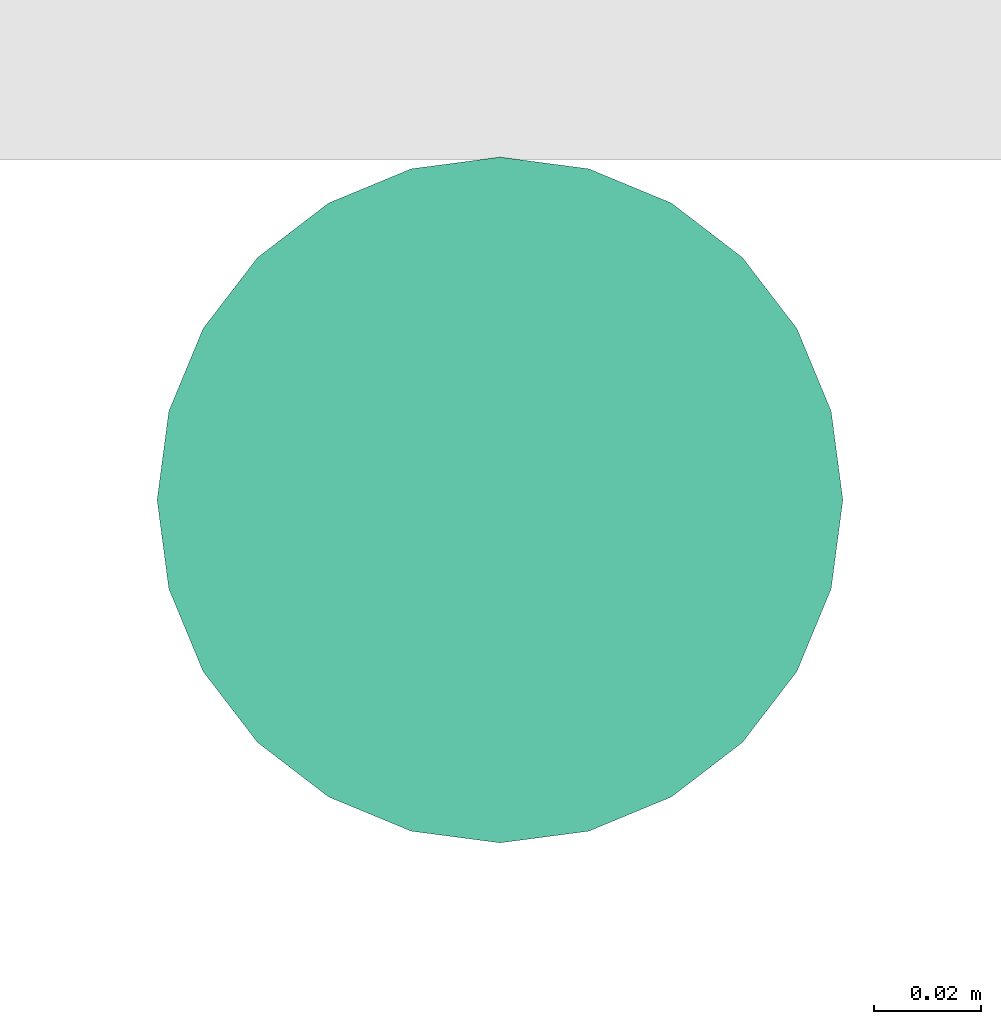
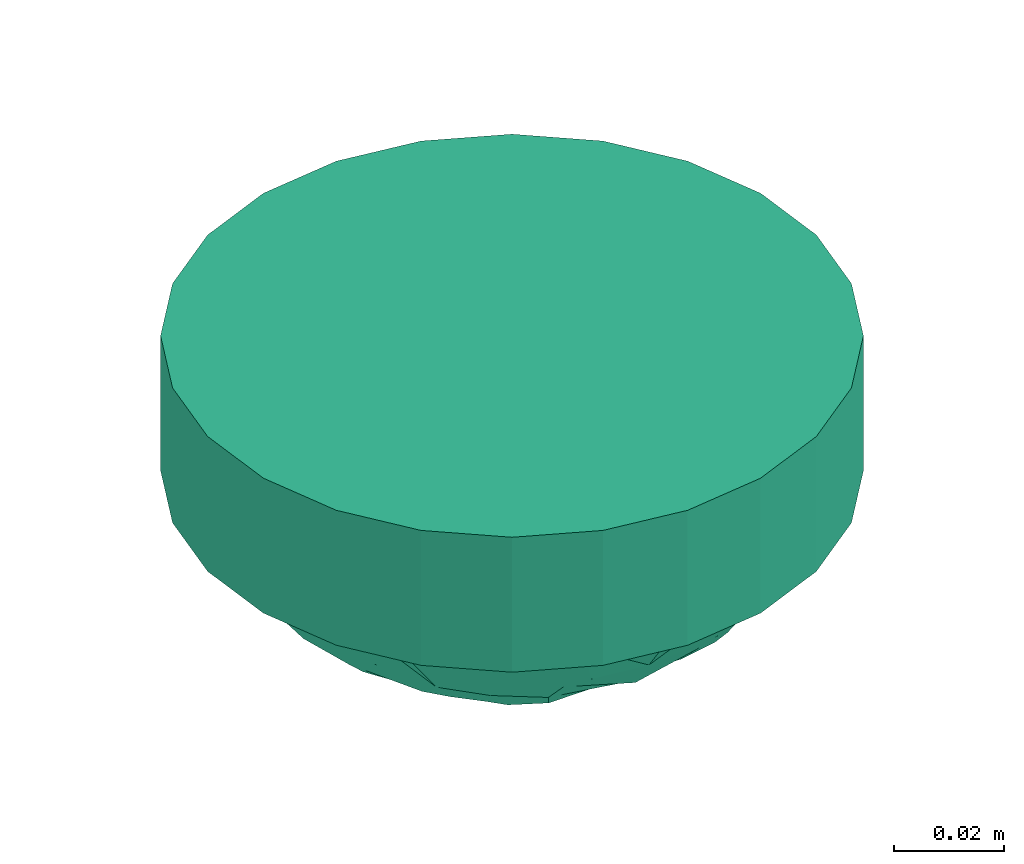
# One storey, part 129 of 153: 1 flow terminal.
"""IFC2X3 building model written with IfcOpenShell, lengths in metres."""

from ifc_helpers import new_model, entity, si_unit, converted_unit, derived_unit, direction, frame, origin, place, context, subcontext, project, spatial, faceted_brep, source, transform, mapped, type_object, type_shapes, element, save


model = new_model("IFC2X3")

# Units and contexts
model_context = context("Model", 3, precision=1e-05, world=origin(), true_north=direction((6.12303176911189e-17, 1.0)))
body_context = subcontext(model_context, "Body", "Model", "MODEL_VIEW")
ifc_project = project(units=[si_unit("LENGTHUNIT", "METRE"), si_unit("AREAUNIT", "SQUARE_METRE"), si_unit("VOLUMEUNIT", "CUBIC_METRE"), converted_unit("PLANEANGLEUNIT", "DEGREE", entity("IfcRatioMeasure", 0.0174532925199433), si_unit("PLANEANGLEUNIT", "RADIAN"), dimensions=[0, 0, 0, 0, 0, 0, 0]), si_unit("MASSUNIT", "GRAM", prefix="KILO"), derived_unit("MASSDENSITYUNIT", [(si_unit("MASSUNIT", "GRAM", prefix="KILO"), 1), (si_unit("LENGTHUNIT", "METRE"), -3)]), si_unit("TIMEUNIT", "SECOND"), si_unit("FREQUENCYUNIT", "HERTZ"), si_unit("THERMODYNAMICTEMPERATUREUNIT", "DEGREE_CELSIUS"), derived_unit("THERMALTRANSMITTANCEUNIT", [(si_unit("MASSUNIT", "GRAM", prefix="KILO"), 1), (si_unit("THERMODYNAMICTEMPERATUREUNIT", "KELVIN"), -1), (si_unit("TIMEUNIT", "SECOND"), -3)]), derived_unit("VOLUMETRICFLOWRATEUNIT", [(si_unit("LENGTHUNIT", "METRE"), 3), (si_unit("TIMEUNIT", "SECOND"), -1)]), si_unit("ELECTRICCURRENTUNIT", "AMPERE"), si_unit("ELECTRICVOLTAGEUNIT", "VOLT"), si_unit("POWERUNIT", "WATT"), si_unit("FORCEUNIT", "NEWTON"), si_unit("ILLUMINANCEUNIT", "LUX"), si_unit("LUMINOUSFLUXUNIT", "LUMEN"), si_unit("LUMINOUSINTENSITYUNIT", "CANDELA"), derived_unit("USERDEFINED", [(si_unit("MASSUNIT", "GRAM", prefix="KILO"), -1), (si_unit("LENGTHUNIT", "METRE"), -2), (si_unit("TIMEUNIT", "SECOND"), 3), (si_unit("LUMINOUSFLUXUNIT", "LUMEN"), 1)]), derived_unit("LINEARVELOCITYUNIT", [(si_unit("LENGTHUNIT", "METRE"), 1), (si_unit("TIMEUNIT", "SECOND"), -1)]), si_unit("PRESSUREUNIT", "PASCAL"), derived_unit("USERDEFINED", [(si_unit("LENGTHUNIT", "METRE"), -2), (si_unit("MASSUNIT", "GRAM", prefix="KILO"), 1), (si_unit("TIMEUNIT", "SECOND"), -2)])], contexts=[model_context])

# Site, building, storey
site_placement = place(None, origin())
site = spatial("IfcSite", under=ifc_project, at=site_placement, Name="Default", CompositionType="ELEMENT")
building_placement = place(site_placement, origin())
building = spatial("IfcBuilding", under=site, at=building_placement, CompositionType="ELEMENT")
storey_placement = place(building_placement, frame((0.0, 0.0, -4.62)))
storey = spatial("IfcBuildingStorey", under=building, at=storey_placement, Name="S02", CompositionType="ELEMENT", Elevation=-4.62)

# Flow terminal
light_fixture_type = type_object("IfcLightFixtureType", Name="Détecteur 360°", PredefinedType="NOTDEFINED")
shared_shape = source(origin(), body_context, "Body", "Brep", [
    faceted_brep([(0.0, -0.0397165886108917, 0.0531256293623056), (0.0, -0.034524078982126, 0.0563702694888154), (-0.0175153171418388, -0.0435914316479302, 0.0478512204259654), (-0.0194029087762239, -0.000878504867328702, 0.0644483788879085), (0.0, 0.0, 0.0669999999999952), (0.0, 0.00603476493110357, 0.0659648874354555), (-0.0174057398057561, -0.0159851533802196, 0.0630502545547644), (-0.0366619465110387, -0.0127227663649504, 0.0549213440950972), (-0.026998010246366, -0.0195753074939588, 0.0584711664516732), (-0.0202403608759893, -0.0335607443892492, 0.054639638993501), (-0.0359767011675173, -0.0348394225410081, 0.0444249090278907), (-0.0276843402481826, -0.0401006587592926, 0.0459804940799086), (-0.0133088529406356, -0.0517577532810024, 0.0400582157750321), (-0.0172617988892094, -0.0486391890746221, 0.042533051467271), (-0.0256912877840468, -0.0533485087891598, 0.0299999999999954), (-0.0462941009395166, -0.0369183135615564, 0.0299999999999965), (0.0, -0.0241390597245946, 0.0628595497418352), (-0.0186245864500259, -0.0267295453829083, 0.0589100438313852), (-0.0139070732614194, -0.0374370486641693, 0.0540817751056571), (0.0, 0.0449090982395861, 0.049880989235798), (-0.0172618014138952, 0.0486391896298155, 0.0425330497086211), (0.0, 0.0397165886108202, 0.0531256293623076), (-0.0186245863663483, 0.0267295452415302, 0.0589100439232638), (-0.0202403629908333, 0.0335607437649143, 0.054639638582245), (-0.0353547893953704, 0.0284533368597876, 0.0494330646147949), (0.0, 0.0120695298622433, 0.0649297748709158), (-0.0249385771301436, 0.0204731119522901, 0.0590841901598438), (-0.0191783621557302, 0.0150189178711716, 0.062775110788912), (-0.0465404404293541, -0.0196510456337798, 0.0438984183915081), (-0.052010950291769, -0.0250471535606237, 0.029999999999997), (-0.0453471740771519, -0.0286501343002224, 0.0397747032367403), (-0.0365036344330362, -0.0226255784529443, 0.0516441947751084), (-0.0175153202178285, 0.0435914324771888, 0.0478512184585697), (-0.0359926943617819, 0.0451334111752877, 0.0299999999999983), (-0.0276843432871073, 0.0401006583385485, 0.0459804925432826), (-0.00849704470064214, -0.0572729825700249, 0.0299999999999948), (0.0, -0.0592123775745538, 0.0299999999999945), (0.0, -0.0545512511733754, 0.0364787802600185), (0.0, -0.049890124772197, 0.0429575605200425), (-0.0169940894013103, -0.055333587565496, 0.0299999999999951), (-0.0359767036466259, 0.0348394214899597, 0.0444249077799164), (-0.025691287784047, 0.0533485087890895, 0.0299999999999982), (-0.0308419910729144, 0.0492409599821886, 0.0299999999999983), (-0.0130265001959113, 0.0514867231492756, 0.040526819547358), (-0.0169940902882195, 0.0553335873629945, 0.029999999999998), (0.0, 0.0498901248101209, 0.0429575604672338), (-0.0353547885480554, -0.0284533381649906, 0.0494330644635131), (0.0, 0.0181042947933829, 0.0638946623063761), (-0.0473669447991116, -0.00128092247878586, 0.0474310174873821), (-0.0485435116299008, -0.00908961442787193, 0.0452357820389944), (-0.0366597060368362, -0.0032867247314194, 0.0563153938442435), (-0.0226425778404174, -0.0107553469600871, 0.0624973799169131), (0.0, -0.00603476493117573, 0.0659648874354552), (0.0, 0.0293315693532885, 0.0596149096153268), (-0.0139070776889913, 0.0374370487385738, 0.0540817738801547), (-0.0449600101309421, 0.018422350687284, 0.0461366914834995), (-0.0453471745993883, 0.0286501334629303, 0.0397747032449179), (-0.0476906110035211, 0.00670602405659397, 0.0466053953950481), (-0.0577277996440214, 0.0131759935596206, 0.0299999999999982), (-0.0577277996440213, 0.00658799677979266, 0.029999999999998), (-0.0577277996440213, 0.0, 0.0299999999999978), (0.0, -0.0449090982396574, 0.0498809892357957), (-0.0308419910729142, -0.049240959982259, 0.0299999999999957), (-0.0359926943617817, -0.0451334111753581, 0.029999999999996), (0.0, 0.0345240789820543, 0.0563702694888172), (-0.0411433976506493, 0.0410258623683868, 0.0299999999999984), (-0.0462941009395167, 0.0369183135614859, 0.0299999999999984), (-0.0491525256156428, -0.03098273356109, 0.0299999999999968), (-0.0577277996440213, -0.0131759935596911, 0.0299999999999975), (0.0, -0.018104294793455, 0.0638946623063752), (-0.0377433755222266, 0.0044838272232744, 0.0554913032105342), (-0.0577277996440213, -0.00658799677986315, 0.0299999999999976), (-0.0385149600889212, 0.0124844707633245, 0.0536578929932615), (-0.0491525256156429, 0.0309827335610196, 0.0299999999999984), (-0.0548693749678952, 0.0191115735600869, 0.0299999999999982), (0.0, 0.0241390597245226, 0.0628595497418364), (-0.014625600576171, 0.0100436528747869, 0.0649170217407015), (-0.0271766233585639, 0.00920278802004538, 0.0609170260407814), (0.0, -0.0120695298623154, 0.0649297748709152), (-0.0520109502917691, 0.0250471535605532, 0.0299999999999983), (-0.0411433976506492, -0.0410258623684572, 0.0299999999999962), (-0.0548693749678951, -0.0191115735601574, 0.0299999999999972), (0.0, -0.0293315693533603, 0.0596149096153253), (0.0, 0.0545512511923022, 0.0364787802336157), (0.0, 0.0592123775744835, 0.0299999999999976), (-0.00849704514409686, 0.057272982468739, 0.0299999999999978), (-0.0127455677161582, 0.0563032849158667, 0.0299999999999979), (-0.0213426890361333, 0.054341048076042, 0.0299999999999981), (0.0175153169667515, 0.0435914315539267, 0.0478512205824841), (0.0194029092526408, 0.000878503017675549, 0.0644483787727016), (0.017405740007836, 0.0159851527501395, 0.0630502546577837), (0.0366619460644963, 0.012722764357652, 0.0549213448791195), (0.0269980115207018, 0.0195753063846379, 0.0584711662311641), (0.0202403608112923, 0.0335607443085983, 0.0546396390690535), (0.0359767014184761, 0.0348394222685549, 0.0444249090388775), (0.0276843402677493, 0.0401006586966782, 0.0459804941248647), (0.0133088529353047, 0.0517577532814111, 0.0400582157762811), (0.0172617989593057, 0.0486391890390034, 0.0425330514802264), (0.0256912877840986, 0.0533485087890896, 0.0299999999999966), (0.0462941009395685, 0.0369183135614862, 0.0299999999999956), (0.00849704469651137, 0.0572729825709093, 0.0299999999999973), (0.0169940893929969, 0.0553335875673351, 0.029999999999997), (0.0172617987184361, -0.0486391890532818, 0.0425330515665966), (0.025691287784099, -0.0533485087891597, 0.0299999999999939), (0.0308419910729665, -0.0492409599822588, 0.0299999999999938), (0.0175153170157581, -0.0435914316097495, 0.0478512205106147), (0.0186245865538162, -0.0267295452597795, 0.0589100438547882), (0.0202403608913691, -0.03356074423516, 0.0546396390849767), (0.0353547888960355, -0.0284533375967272, 0.0494330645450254), (0.0249385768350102, -0.0204731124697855, 0.0590841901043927), (0.0191783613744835, -0.0150189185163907, 0.062775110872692), (0.0465404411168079, 0.0196510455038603, 0.0438984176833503), (0.0577277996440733, 0.0131759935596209, 0.0299999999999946), (0.0548693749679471, 0.0191115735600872, 0.0299999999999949), (0.0520109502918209, 0.0250471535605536, 0.0299999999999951), (0.0365036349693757, 0.0226255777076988, 0.0516441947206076), (0.0186245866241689, 0.0267295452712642, 0.0589100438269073), (0.0359926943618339, -0.0451334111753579, 0.0299999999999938), (0.0276843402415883, -0.0401006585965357, 0.0459804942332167), (0.0139070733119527, 0.0374370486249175, 0.0540817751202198), (0.0359767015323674, -0.0348394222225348, 0.044424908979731), (0.0226425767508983, 0.0107553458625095, 0.0624973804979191), (0.0169940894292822, -0.0553335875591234, 0.0299999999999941), (0.0130264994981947, -0.0514867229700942, 0.0405268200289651), (0.0453471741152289, 0.0286501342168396, 0.039774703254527), (0.0353547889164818, 0.0284533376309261, 0.0494330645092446), (0.0473669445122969, 0.00128092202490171, 0.0474310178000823), (0.0485435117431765, 0.00908961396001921, 0.0452357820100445), (0.0366597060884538, 0.00328672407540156, 0.0563153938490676), (0.0139070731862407, -0.0374370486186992, 0.0540817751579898), (0.0449600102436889, -0.018422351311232, 0.0461366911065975), (0.0453471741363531, -0.0286501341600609, 0.039774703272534), (0.0476906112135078, -0.00670602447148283, 0.046605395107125), (0.0577277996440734, -0.0131759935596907, 0.0299999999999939), (0.0577277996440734, -0.00658799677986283, 0.0299999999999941), (0.0577277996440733, 0.0, 0.0299999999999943), (0.0308419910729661, 0.0492409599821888, 0.0299999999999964), (0.0359926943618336, 0.0451334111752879, 0.0299999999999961), (0.0411433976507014, -0.041025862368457, 0.0299999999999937), (0.0462941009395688, -0.0369183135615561, 0.0299999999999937), (0.0491525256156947, 0.0309827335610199, 0.0299999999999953), (0.037743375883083, -0.00448382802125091, 0.0554913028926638), (0.0577277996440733, 0.00658799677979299, 0.0299999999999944), (0.0385149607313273, -0.0124844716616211, 0.0536578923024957), (0.049152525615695, -0.0309827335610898, 0.0299999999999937), (0.0548693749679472, -0.0191115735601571, 0.0299999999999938), (0.0146256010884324, -0.0100436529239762, 0.0649170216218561), (0.0271766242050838, -0.00920278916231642, 0.0609170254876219), (0.0520109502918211, -0.0250471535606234, 0.0299999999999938), (0.041143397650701, 0.0410258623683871, 0.0299999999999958), (0.00849704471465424, -0.0572729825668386, 0.0299999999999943), (0.0127455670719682, -0.056303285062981, 0.0299999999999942), (0.0213426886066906, -0.0543410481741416, 0.029999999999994), (0.0, 0.0, 0.0299999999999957)], [[[0, 1, 2]], [[3, 4, 5]], [[6, 7, 8]], [[9, 10, 11]], [[12, 13, 14]], [[10, 15, 11]], [[9, 16, 17]], [[18, 9, 11]], [[19, 20, 21]], [[22, 23, 24]], [[25, 26, 27]], [[28, 29, 30]], [[8, 31, 17]], [[32, 33, 34]], [[35, 36, 37, 38, 39]], [[23, 40, 24]], [[20, 41, 42]], [[19, 43, 20]], [[44, 43, 45]], [[20, 32, 21]], [[30, 10, 46]], [[22, 26, 47]], [[48, 49, 50]], [[3, 51, 52]], [[53, 54, 23]], [[55, 24, 56]], [[57, 58, 59, 60]], [[13, 61, 0]], [[13, 0, 2]], [[2, 62, 13]], [[18, 2, 1]], [[2, 11, 63]], [[32, 64, 21]], [[32, 42, 33]], [[34, 33, 65, 66]], [[20, 42, 32]], [[54, 32, 34]], [[28, 30, 31]], [[10, 67, 15]], [[49, 68, 28]], [[8, 17, 69]], [[7, 6, 51]], [[28, 31, 7]], [[57, 48, 70]], [[58, 57, 55]], [[48, 71, 49]], [[70, 48, 50]], [[3, 50, 51]], [[55, 26, 24]], [[72, 57, 70]], [[26, 55, 72]], [[56, 40, 73]], [[56, 74, 55]], [[47, 75, 22]], [[52, 4, 3]], [[7, 50, 49]], [[5, 76, 3]], [[70, 3, 77]], [[51, 78, 52]], [[26, 25, 47]], [[76, 25, 27]], [[23, 22, 75]], [[26, 22, 24]], [[53, 64, 54]], [[23, 34, 40]], [[66, 40, 34]], [[40, 66, 73]], [[56, 73, 79, 74]], [[72, 27, 26]], [[40, 56, 24]], [[23, 75, 53]], [[69, 17, 16]], [[78, 6, 69]], [[46, 10, 9]], [[46, 9, 17]], [[50, 7, 51]], [[30, 29, 67]], [[80, 63, 11, 15]], [[28, 68, 81, 29]], [[10, 30, 67]], [[30, 46, 31]], [[82, 18, 1]], [[82, 16, 9]], [[28, 7, 49]], [[12, 39, 38]], [[61, 13, 12]], [[83, 84, 85, 86, 44, 45]], [[43, 41, 20]], [[44, 87, 41, 43]], [[32, 54, 64]], [[23, 54, 34]], [[9, 18, 82]], [[2, 18, 11]], [[39, 12, 14]], [[38, 61, 12]], [[62, 2, 63]], [[62, 14, 13]], [[17, 31, 46]], [[7, 31, 8]], [[48, 60, 71]], [[71, 68, 49]], [[60, 48, 57]], [[3, 70, 50]], [[72, 70, 77]], [[72, 77, 27]], [[55, 57, 72]], [[74, 58, 55]], [[76, 27, 77]], [[3, 76, 77]], [[25, 76, 5]], [[69, 6, 8]], [[78, 51, 6]], [[45, 43, 19]], [[21, 64, 88]], [[89, 4, 52]], [[90, 91, 92]], [[93, 94, 95]], [[96, 97, 98]], [[94, 99, 95]], [[100, 84, 83, 45, 101]], [[102, 103, 104]], [[102, 105, 0]], [[106, 107, 108]], [[78, 109, 110]], [[111, 112, 113, 114]], [[92, 115, 116]], [[105, 117, 118]], [[119, 93, 95]], [[107, 120, 108]], [[89, 121, 5]], [[122, 123, 38]], [[61, 123, 102]], [[93, 75, 116]], [[124, 94, 125]], [[106, 109, 69]], [[126, 127, 128]], [[61, 102, 0]], [[82, 129, 107]], [[130, 108, 131]], [[132, 133, 134, 135]], [[97, 19, 21]], [[97, 21, 88]], [[88, 136, 97]], [[119, 88, 64]], [[88, 95, 137]], [[105, 1, 0]], [[105, 104, 117]], [[118, 117, 138, 139]], [[102, 104, 105]], [[129, 105, 118]], [[111, 124, 115]], [[94, 140, 99]], [[127, 112, 111]], [[92, 116, 47]], [[91, 90, 121]], [[111, 115, 91]], [[132, 126, 141]], [[133, 132, 130]], [[126, 142, 127]], [[141, 126, 128]], [[89, 128, 121]], [[130, 109, 108]], [[143, 132, 141]], [[109, 130, 143]], [[131, 120, 144]], [[131, 145, 130]], [[69, 16, 106]], [[5, 4, 89]], [[91, 128, 127]], [[52, 146, 89]], [[141, 89, 147]], [[121, 25, 5]], [[109, 78, 69]], [[146, 78, 110]], [[107, 106, 16]], [[109, 106, 108]], [[82, 1, 129]], [[107, 118, 120]], [[139, 120, 118]], [[120, 139, 144]], [[131, 144, 148, 145]], [[143, 110, 109]], [[120, 131, 108]], [[107, 16, 82]], [[47, 116, 75]], [[25, 90, 47]], [[125, 94, 93]], [[125, 93, 116]], [[128, 91, 121]], [[124, 114, 140]], [[149, 137, 95, 99]], [[111, 114, 124]], [[94, 124, 140]], [[124, 125, 115]], [[53, 119, 64]], [[53, 75, 93]], [[111, 91, 127]], [[96, 101, 45]], [[19, 97, 96]], [[37, 36, 150, 151, 122, 38]], [[123, 103, 102]], [[122, 152, 103, 123]], [[105, 129, 1]], [[107, 129, 118]], [[93, 119, 53]], [[88, 119, 95]], [[101, 96, 98]], [[45, 19, 96]], [[136, 88, 137]], [[136, 98, 97]], [[116, 115, 125]], [[91, 115, 92]], [[126, 135, 142]], [[142, 112, 127]], [[135, 126, 132]], [[89, 141, 128]], [[143, 141, 147]], [[143, 147, 110]], [[130, 132, 143]], [[145, 133, 130]], [[146, 110, 147]], [[89, 146, 147]], [[78, 146, 52]], [[47, 90, 92]], [[25, 121, 90]], [[38, 123, 61]], [[153, 66, 65]], [[153, 65, 33]], [[153, 33, 42]], [[153, 42, 41]], [[153, 41, 87]], [[153, 73, 66]], [[153, 79, 73]], [[153, 74, 79]], [[153, 58, 74]], [[153, 87, 44]], [[153, 44, 86]], [[153, 86, 85]], [[153, 85, 84]], [[153, 84, 100]], [[153, 59, 58]], [[153, 60, 59]], [[153, 71, 60]], [[153, 68, 71]], [[153, 81, 68]], [[153, 29, 81]], [[153, 67, 29]], [[153, 15, 67]], [[153, 80, 15]], [[153, 63, 80]], [[153, 62, 63]], [[153, 14, 62]], [[153, 39, 14]], [[153, 35, 39]], [[153, 36, 35]], [[153, 100, 101]], [[153, 101, 98]], [[153, 98, 136]], [[153, 136, 137]], [[153, 137, 149]], [[153, 149, 99]], [[153, 99, 140]], [[153, 140, 114]], [[153, 114, 113]], [[153, 113, 112]], [[153, 112, 142]], [[153, 150, 36]], [[153, 151, 150]], [[153, 122, 151]], [[153, 152, 122]], [[153, 103, 152]], [[153, 104, 103]], [[153, 117, 104]], [[153, 138, 117]], [[153, 139, 138]], [[153, 144, 139]], [[153, 148, 144]], [[153, 145, 148]], [[153, 133, 145]], [[153, 142, 135]], [[153, 135, 134]], [[153, 134, 133]]]),
    faceted_brep([(0.0165644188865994, -0.0618192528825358, 0.029999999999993), (0.0320000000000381, -0.0554256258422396, 0.0299999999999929), (0.0452548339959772, -0.0452548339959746, 0.0299999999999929), (0.0554256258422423, -0.0320000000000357, 0.029999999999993), (0.0618192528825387, -0.016564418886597, 0.0299999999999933), (0.0640000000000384, 0.0, 0.0299999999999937), (0.0618192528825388, 0.016564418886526, 0.0299999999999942), (0.0554256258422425, 0.0319999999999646, 0.0299999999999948), (0.0452548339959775, 0.0452548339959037, 0.0299999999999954), (0.0320000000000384, 0.0554256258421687, 0.0299999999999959), (0.0165644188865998, 0.061819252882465, 0.0299999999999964), (0.0, 0.0639999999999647, 0.0299999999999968), (-0.0165644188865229, 0.061819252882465, 0.0299999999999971), (-0.0319999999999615, 0.0554256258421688, 0.0299999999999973), (-0.0452548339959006, 0.0452548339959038, 0.0299999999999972), (-0.0554256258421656, 0.0319999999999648, 0.0299999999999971), (-0.0618192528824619, 0.0165644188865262, 0.0299999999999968), (-0.0639999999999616, 0.0, 0.0299999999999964), (-0.061819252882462, -0.0165644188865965, 0.0299999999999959), (-0.0554256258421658, -0.0320000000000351, 0.0299999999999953), (-0.0452548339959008, -0.0452548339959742, 0.0299999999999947), (-0.0319999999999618, -0.0554256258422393, 0.0299999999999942), (-0.0165644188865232, -0.0618192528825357, 0.0299999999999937), (0.0, -0.0640000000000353, 0.0299999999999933), (0.0165644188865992, 0.0618192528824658, 0.0), (0.0320000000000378, 0.0554256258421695, 0.0), (0.0452548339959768, 0.0452548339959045, 0.0), (0.0554256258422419, 0.0319999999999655, 0.0), (0.0618192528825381, 0.0165644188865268, 0.0), (0.0640000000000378, 0.0, 0.0), (0.061819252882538, -0.0165644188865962, 0.0), (0.0554256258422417, -0.0320000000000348, 0.0), (0.0452548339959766, -0.0452548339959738, 0.0), (0.0320000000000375, -0.0554256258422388, 0.0), (0.0165644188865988, -0.061819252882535, 0.0), (0.0, -0.0640000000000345, 0.0), (-0.0165644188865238, -0.0618192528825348, 0.0), (-0.0319999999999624, -0.0554256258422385, 0.0), (-0.0452548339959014, -0.0452548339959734, 0.0), (-0.0554256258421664, -0.0320000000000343, 0.0), (-0.0618192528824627, -0.0165644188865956, 0.0), (-0.0639999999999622, 0.0, 0.0), (-0.0618192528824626, 0.016564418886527, 0.0), (-0.0554256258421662, 0.0319999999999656, 0.0), (-0.0452548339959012, 0.0452548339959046, 0.0), (-0.0319999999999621, 0.0554256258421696, 0.0), (-0.0165644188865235, 0.0618192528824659, 0.0), (0.0, 0.0639999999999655, 0.0)], [[[0, 1, 2, 3, 4, 5, 6, 7, 8, 9, 10, 11, 12, 13, 14, 15, 16, 17, 18, 19, 20, 21, 22, 23]], [[24, 25, 26, 27, 28, 29, 30, 31, 32, 33, 34, 35, 36, 37, 38, 39, 40, 41, 42, 43, 44, 45, 46, 47]], [[40, 18, 17, 41]], [[39, 19, 18, 40]], [[21, 20, 38, 37]], [[39, 38, 20, 19]], [[22, 21, 37, 36]], [[23, 22, 36, 35]], [[34, 0, 23, 35]], [[33, 1, 0, 34]], [[3, 2, 32, 31]], [[33, 32, 2, 1]], [[4, 3, 31, 30]], [[5, 4, 30, 29]], [[28, 6, 5, 29]], [[27, 7, 6, 28]], [[9, 8, 26, 25]], [[27, 26, 8, 7]], [[10, 9, 25, 24]], [[11, 10, 24, 47]], [[46, 12, 11, 47]], [[45, 13, 12, 46]], [[42, 41, 17, 16]], [[44, 14, 13, 45]], [[43, 15, 14, 44]], [[43, 42, 16, 15]]]),
])
type_shapes(light_fixture_type, [shared_shape])
flow_terminal_placement = place(building_placement, frame((63.4258182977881, -190.079279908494, 6.93), z_axis=(0.0, 0.0, -1.0), x_axis=(-1.0, 0.0, 0.0)))
element("IfcFlowTerminal", 1, at=flow_terminal_placement, inside=storey, type_object=light_fixture_type, Name="INT - Détecteur Luminosite:Détecteur 360°", ObjectType="INT - Détecteur Luminosite:Détecteur 360°", context=body_context, shape_type="MappedRepresentation", body=[
    mapped(shared_shape, transform((0.0, 0.0, 0.0), scale=1.0)),
])

save(model, "model.ifc")
